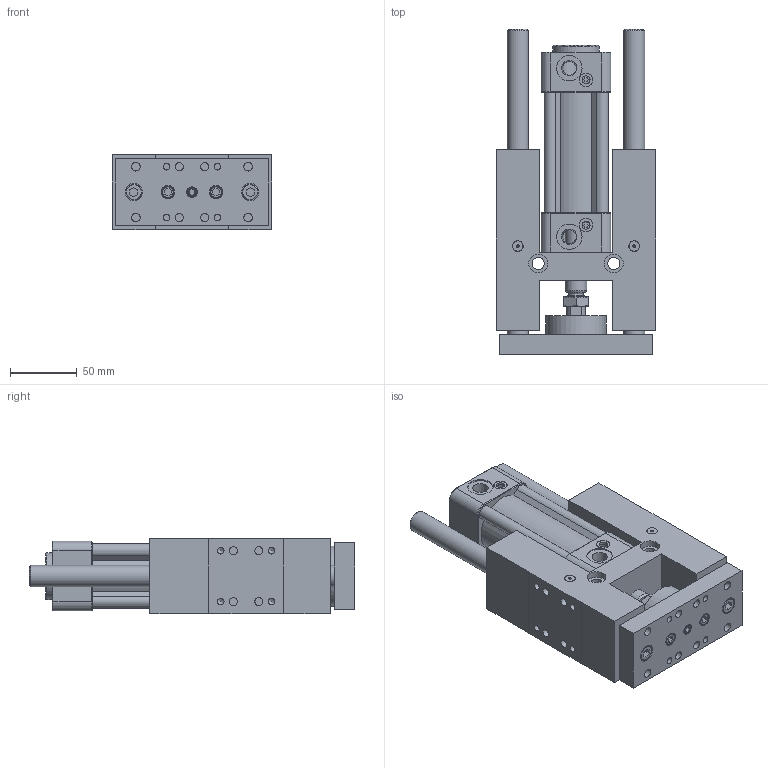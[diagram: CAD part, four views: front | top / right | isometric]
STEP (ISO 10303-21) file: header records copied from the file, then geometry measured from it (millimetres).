
FILE_DESCRIPTION((''),'2;1');
FILE_NAME('I:\3D電子目錄\氣缸\GHB(U)\GHB(U)\GHB(U)40\GHB(U)40x50.stp','2007-10-19T14:48:17',('Administrator'),(''),'Autodesk Inventor 11','Autodesk Inventor 11','');
FILE_SCHEMA(('AUTOMOTIVE_DESIGN { 1 0 10303 214 1 1 1 1 }'));
Length unit declared in the file: millimetre
Products named in the file (1): GHB(U)40
Bounding box: 119 x 243 x 56.2 mm (x, y, z)
Volume: 904272 mm3; surface area: 187925.2 mm2
Topology: 17 solids, 17 shells, 779 faces, 1702 edges, 1054 vertices
Faces by surface type: plane 296, bspline 215, cylinder 170, cone 89, torus 9
Full cylindrical faces by diameter (mm): 2.6 x2, 4.9 x2, 4.917 x4, 5 x4, 5.5 x10, 6 x12, 6.5 x8, 6.8 x1, 7.8 x6, 8 x5, 9 x6, 9.5 x1, 9.9 x1, 10 x5, 10.2 x8, 12 x3, 13 x2, 16 x4, 18 x1, 19 x2, 21 x2, 35 x1, 40 x1, 45 x1
Entity records: 22134 total; most frequent: CARTESIAN_POINT 6597, DIRECTION 3108, ORIENTED_EDGE 2968, EDGE_CURVE 1484, AXIS2_PLACEMENT_3D 1218, EDGE_LOOP 1096, VERTEX_POINT 1022, FACE_OUTER_BOUND 779
